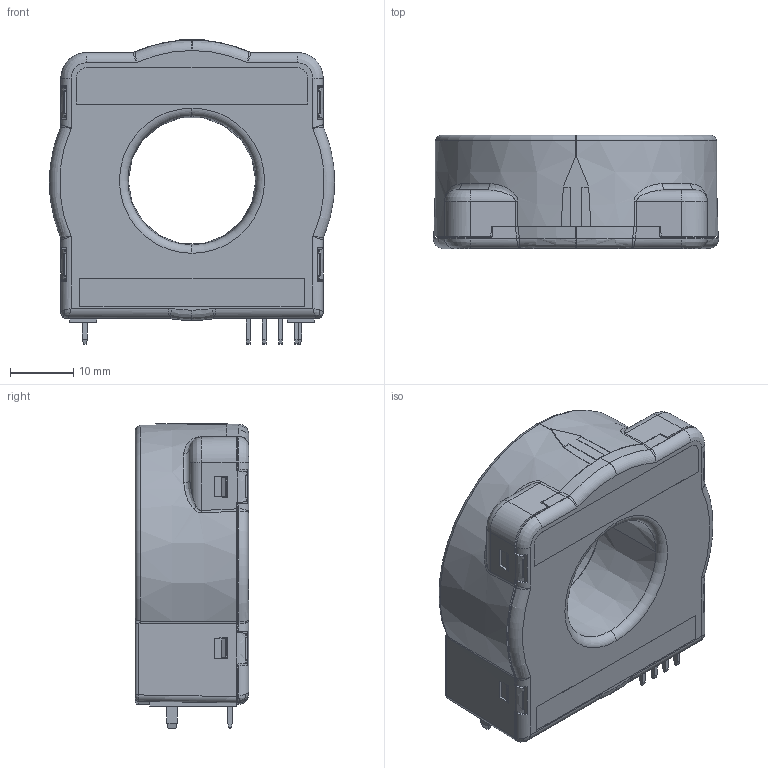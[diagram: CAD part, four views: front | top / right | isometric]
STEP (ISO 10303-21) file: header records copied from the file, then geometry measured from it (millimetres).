
FILE_DESCRIPTION(('CoCreate Modeling STEP Export'),'2;1');
FILE_NAME('CTSR_1-P_blackbox.stp','2013-04-25T16:33:03',(''),(''),'CoCreate Modeling STEP processor for AP214 (Solid Model)','CoCreate Modeling 17.00A 17-Jun-2010 (C) Parametric Technology GmbH','');
FILE_SCHEMA(('AUTOMOTIVE_DESIGN { 1 0 10303 214 1 1 1 1 }'));
Length unit declared in the file: millimetre
Products named in the file (2): CTSR_1-P_blackbox
Assembly tree (1 placements, depth 2):
  CTSR_1-P_blackbox
    CTSR_1-P_blackbox
Bounding box: 45 x 17.9 x 48.06 mm (x, y, z)
Volume: 24942.6 mm3; surface area: 7230.9 mm2
Topology: 1 solids, 1 shells, 522 faces, 1421 edges, 908 vertices
Faces by surface type: plane 303, cylinder 109, bspline 51, cone 29, torus 26, extrusion 4
Entity records: 19396 total; most frequent: CARTESIAN_POINT 6401, ORIENTED_EDGE 2824, DIRECTION 2220, EDGE_CURVE 1412, VECTOR 942, LINE 938, VERTEX_POINT 908, AXIS2_PLACEMENT_3D 639
